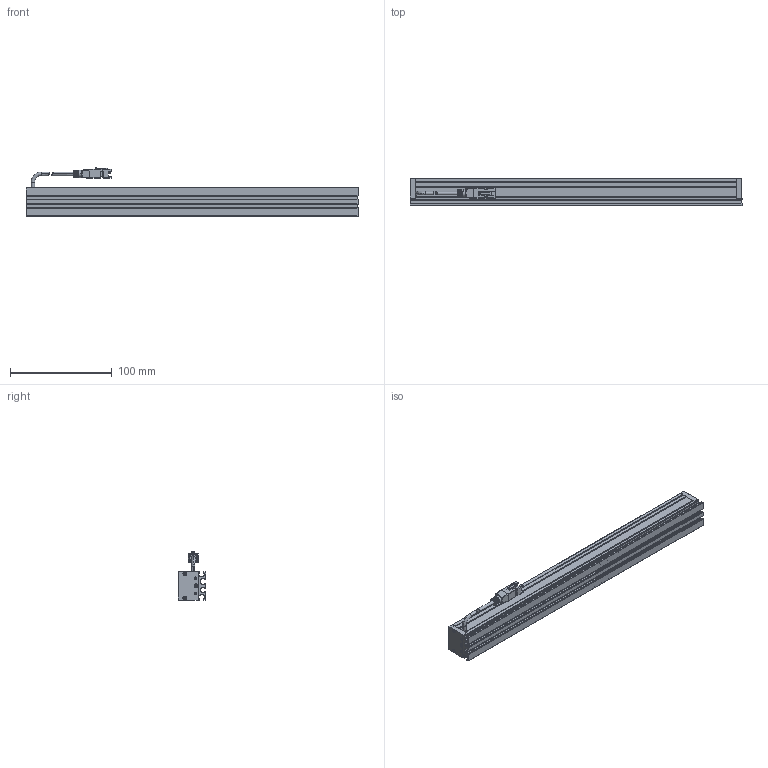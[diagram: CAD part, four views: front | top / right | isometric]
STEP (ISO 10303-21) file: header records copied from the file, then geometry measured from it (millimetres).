
FILE_DESCRIPTION (( 'STEP AP203' ), '1' );
FILE_NAME ('CK-BL32728.STEP', '2026-01-02T03:15:28', ( '' ), ( '' ), 'SwSTEP 2.0', 'SolidWorks 2022', '' );
FILE_SCHEMA (( 'CONFIG_CONTROL_DESIGN' ));
Length unit declared in the file: millimetre
Products named in the file (6): CK-BL32728-003A; 光源线-01; CK-BL32728-002A; CK-BL32728; CK-BL32728-001A; 十字沉头螺丝 M2x10
Assembly tree (11 placements, depth 2):
  CK-BL32728
    CK-BL32728-001A
    CK-BL32728-002A  x2
    CK-BL32728-003A
    光源线-01
    十字沉头螺丝 M2x10  x6
Bounding box: 327 x 27 x 47.34 mm (x, y, z)
Volume: 108581 mm3; surface area: 95250.9 mm2
Topology: 13 solids, 13 shells, 575 faces, 1494 edges, 950 vertices
Faces by surface type: plane 337, cylinder 172, cone 46, bspline 20
Entity records: 13997 total; most frequent: CARTESIAN_POINT 2782, ORIENTED_EDGE 2202, DIRECTION 2163, EDGE_CURVE 1101, VECTOR 781, LINE 781, VERTEX_POINT 714, AXIS2_PLACEMENT_3D 691
